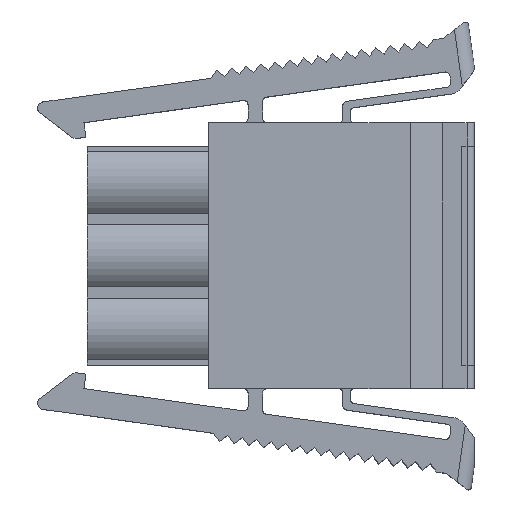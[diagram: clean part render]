
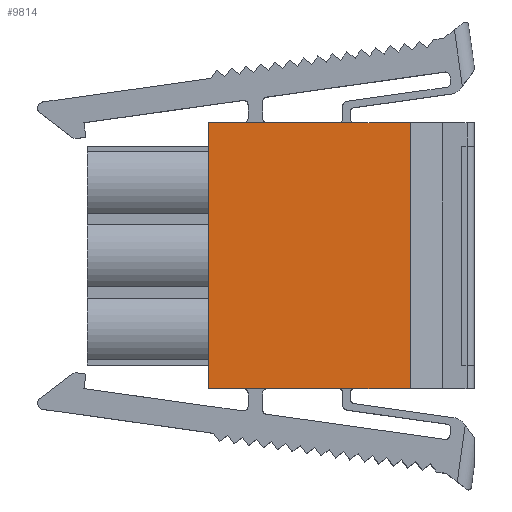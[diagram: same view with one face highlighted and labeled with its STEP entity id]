
A CAD part, top view. The second image highlights one B-rep face of the part: STEP entity #9814.
In plain terms, the highlighted planar face has unit normal (0, 0, 1).
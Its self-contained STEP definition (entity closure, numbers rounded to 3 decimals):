
#570=DIRECTION('',(0.,1.,0.));
#571=VECTOR('',#570,18.2);
#572=CARTESIAN_POINT('',(11.506,6.928,0.));
#573=LINE('',#572,#571);
#574=DIRECTION('',(1.,0.,0.));
#575=VECTOR('',#574,13.8);
#576=CARTESIAN_POINT('',(11.506,25.128,0.));
#577=LINE('',#576,#575);
#578=DIRECTION('',(0.,-1.,0.));
#579=VECTOR('',#578,18.2);
#580=CARTESIAN_POINT('',(25.306,25.128,0.));
#581=LINE('',#580,#579);
#582=DIRECTION('',(-1.,0.,0.));
#583=VECTOR('',#582,13.8);
#584=CARTESIAN_POINT('',(25.306,6.928,0.));
#585=LINE('',#584,#583);
#7043=CARTESIAN_POINT('',(25.306,25.128,0.));
#7044=CARTESIAN_POINT('',(25.306,6.928,0.));
#7045=VERTEX_POINT('',#7043);
#7046=VERTEX_POINT('',#7044);
#7047=CARTESIAN_POINT('',(11.506,6.928,0.));
#7048=CARTESIAN_POINT('',(11.506,25.128,0.));
#7049=VERTEX_POINT('',#7047);
#7050=VERTEX_POINT('',#7048);
#9800=CARTESIAN_POINT('',(3.406,8.528,0.));
#9801=DIRECTION('',(0.,0.,1.));
#9802=DIRECTION('',(1.,0.,0.));
#9803=AXIS2_PLACEMENT_3D('',#9800,#9801,#9802);
#9804=PLANE('',#9803);
#9806=ORIENTED_EDGE('',*,*,#9805,.T.);
#9808=ORIENTED_EDGE('',*,*,#9807,.T.);
#9809=ORIENTED_EDGE('',*,*,#9790,.T.);
#9811=ORIENTED_EDGE('',*,*,#9810,.T.);
#9812=EDGE_LOOP('',(#9806,#9808,#9809,#9811));
#9813=FACE_OUTER_BOUND('',#9812,.F.);
#9814=ADVANCED_FACE('',(#9813),#9804,.T.);
#9790=EDGE_CURVE('',#7045,#7046,#581,.T.);
#9805=EDGE_CURVE('',#7049,#7050,#573,.T.);
#9807=EDGE_CURVE('',#7050,#7045,#577,.T.);
#9810=EDGE_CURVE('',#7046,#7049,#585,.T.);
